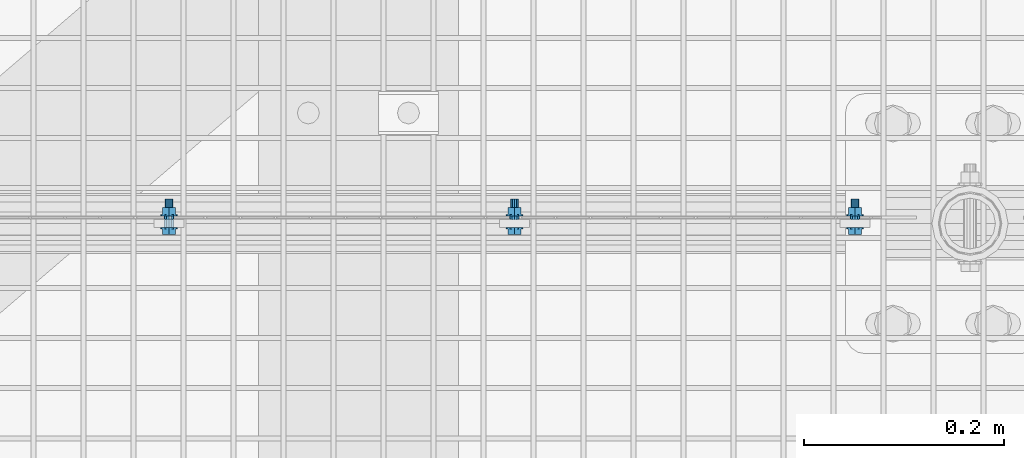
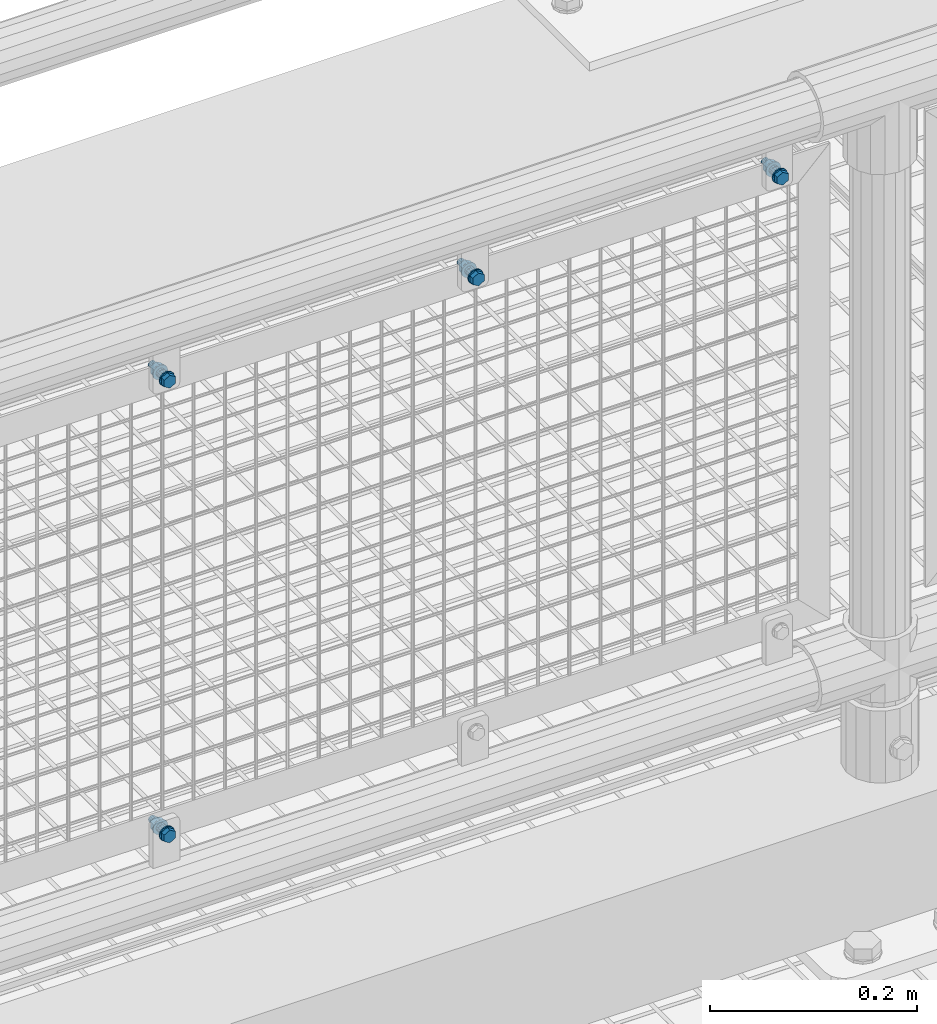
# One storey, part 83 of 1530: 4 mechanical fasteners.
"""IFC2X3 building model written with IfcOpenShell, lengths in millimetres."""

from ifc_helpers import new_model, si_unit, frame, origin_with_axes, place, context, subcontext, project, spatial, faceted_brep, source, transform, mapped, material, type_object, element, save


model = new_model("IFC2X3")

# Units and contexts
model_context = context("Model", 3, precision=1e-05, world=origin_with_axes())
body_context = subcontext(model_context, "Body", "Model", "MODEL_VIEW")
ifc_project = project(units=[si_unit("LENGTHUNIT", "METRE", prefix="MILLI"), si_unit("AREAUNIT", "SQUARE_METRE"), si_unit("VOLUMEUNIT", "CUBIC_METRE"), si_unit("MASSUNIT", "GRAM", prefix="KILO"), si_unit("TIMEUNIT", "SECOND"), si_unit("PLANEANGLEUNIT", "RADIAN"), si_unit("SOLIDANGLEUNIT", "STERADIAN"), si_unit("THERMODYNAMICTEMPERATUREUNIT", "DEGREE_CELSIUS"), si_unit("LUMINOUSINTENSITYUNIT", "LUMEN")], contexts=[model_context])

# Site, building, storey
site_placement = place(None, origin_with_axes())
site = spatial("IfcSite", under=ifc_project, at=site_placement, Name="Brattvåg", CompositionType="ELEMENT")
building_placement = place(site_placement, origin_with_axes())
building = spatial("IfcBuilding", under=site, at=building_placement, Name="Undefined", CompositionType="ELEMENT")
storey_placement = place(building_placement, origin_with_axes())
storey = spatial("IfcBuildingStorey", under=building, at=storey_placement, Name="Undefined", CompositionType="ELEMENT", Elevation=0.0)

# Mechanical fasteners
ifc_material = material(Name="8")
mechanical_fastener_type = type_object("IfcMechanicalFastenerType", Name="Bolt assembly")
shared_shape_1 = source(origin_with_axes(), body_context, "Body", "Brep", [
    faceted_brep([(7.50555349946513, -6.90000021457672, 0.0), (3.75277674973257, -6.90000021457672, 6.5), (-3.75277674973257, -6.90000021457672, 6.5), (-7.50555349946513, -6.90000021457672, 9.19165206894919e-16), (-3.75277674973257, -6.90000021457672, -6.5), (3.75277674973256, -6.90000021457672, -6.5), (3.75277674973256, -1.60000002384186, -6.5), (-3.75277674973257, -1.60000002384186, -6.5), (-7.50555349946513, -1.60000002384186, 9.19165206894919e-16), (-3.75277674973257, -1.60000002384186, 6.5), (3.75277674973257, -1.60000002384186, 6.5), (7.50555349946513, -1.60000002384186, 0.0), (4.0, -1.60000002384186, 0.0), (3.46410161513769, -1.60000002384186, 2.00000000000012), (1.99999999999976, -1.60000002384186, 3.46410161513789), (-4.14534392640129e-13, -1.60000002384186, 4.0), (-2.00000000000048, -1.60000002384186, 3.46410161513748), (-3.4641016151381, -1.60000002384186, 1.9999999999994), (-4.0, -1.60000002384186, -8.29068785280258e-13), (-3.46410161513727, -1.60000002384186, -2.00000000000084), (-1.99999999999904, -1.60000002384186, -3.46410161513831), (1.23916228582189e-12, -1.60000002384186, -4.0), (2.00000000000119, -1.60000002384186, -3.46410161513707), (3.46410161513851, -1.60000002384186, -1.99999999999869), (3.46410161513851, 28.3999999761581, -1.99999999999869), (2.00000000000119, 28.3999999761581, -3.46410161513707), (1.23916228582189e-12, 28.3999999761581, -4.0), (-1.99999999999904, 28.3999999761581, -3.46410161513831), (-3.46410161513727, 28.3999999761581, -2.00000000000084), (-4.0, 28.3999999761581, -8.29068785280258e-13), (-3.4641016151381, 28.3999999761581, 1.9999999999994), (-2.00000000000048, 28.3999999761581, 3.46410161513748), (-4.14534392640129e-13, 28.3999999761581, 4.0), (1.99999999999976, 28.3999999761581, 3.46410161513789), (3.46410161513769, 28.3999999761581, 2.00000000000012), (4.0, 28.3999999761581, 0.0), (8.5, -1.60000002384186, 0.0), (7.36121593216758, -1.60000002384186, 4.25000000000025), (4.24999999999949, -1.60000002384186, 7.36121593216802), (-8.80885584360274e-13, -1.60000002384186, 8.5), (-4.25000000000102, -1.60000002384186, 7.36121593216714), (-7.36121593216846, -1.60000002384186, 4.24999999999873), (-8.5, -1.60000002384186, -1.76177116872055e-12), (-7.3612159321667, -1.60000002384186, -4.25000000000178), (-4.24999999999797, -1.60000002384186, -7.3612159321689), (2.63321985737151e-12, -1.60000002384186, -8.5), (4.25000000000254, -1.60000002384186, -7.36121593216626), (7.36121593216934, -1.60000002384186, -4.24999999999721), (7.36121593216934, 0.0, -4.24999999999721), (4.25000000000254, 0.0, -7.36121593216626), (2.63321985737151e-12, 0.0, -8.5), (-4.24999999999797, 0.0, -7.3612159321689), (-7.3612159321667, 0.0, -4.25000000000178), (-8.5, 0.0, -1.76177116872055e-12), (-7.36121593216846, 0.0, 4.24999999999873), (-4.25000000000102, 0.0, 7.36121593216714), (-8.80885584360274e-13, 0.0, 8.5), (4.24999999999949, 0.0, 7.36121593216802), (7.36121593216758, 0.0, 4.25000000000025), (8.5, 0.0, 0.0), (8.5, 11.5015258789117, 0.0), (7.36121593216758, 11.5015258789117, 4.25000000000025), (4.24999999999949, 11.5015258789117, 7.36121593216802), (-8.80885584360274e-13, 11.5015258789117, 8.5), (-4.25000000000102, 11.5015258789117, 7.36121593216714), (-7.36121593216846, 11.5015258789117, 4.24999999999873), (-8.5, 11.5015258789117, -1.76177116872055e-12), (-7.3612159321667, 11.5015258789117, -4.25000000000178), (-4.24999999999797, 11.5015258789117, -7.3612159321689), (2.63321985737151e-12, 11.5015258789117, -8.5), (4.25000000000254, 11.5015258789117, -7.36121593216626), (7.36121593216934, 11.5015258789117, -4.24999999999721), (7.36121593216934, 13.1015259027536, -4.24999999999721), (4.25000000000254, 13.1015259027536, -7.36121593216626), (2.63321985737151e-12, 13.1015259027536, -8.5), (-4.24999999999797, 13.1015259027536, -7.3612159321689), (-7.3612159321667, 13.1015259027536, -4.25000000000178), (-8.5, 13.1015259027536, -1.76177116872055e-12), (-7.36121593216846, 13.1015259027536, 4.24999999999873), (-4.25000000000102, 13.1015259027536, 7.36121593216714), (-8.80885584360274e-13, 13.1015259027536, 8.5), (4.24999999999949, 13.1015259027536, 7.36121593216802), (7.36121593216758, 13.1015259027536, 4.25000000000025), (8.5, 13.1015259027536, 0.0), (7.50555349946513, 13.1015259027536, 0.0), (3.75277674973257, 13.1015259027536, 6.5), (-3.75277674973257, 13.1015259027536, 6.5), (-7.50555349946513, 13.1015259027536, 9.19165206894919e-16), (-3.75277674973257, 13.1015259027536, -6.5), (3.75277674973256, 13.1015259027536, -6.5), (3.75277674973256, 19.9015260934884, -6.5), (-3.75277674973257, 19.9015260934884, -6.5), (-7.50555349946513, 19.9015260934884, 9.19165206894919e-16), (-3.75277674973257, 19.9015260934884, 6.5), (3.75277674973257, 19.9015260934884, 6.5), (7.50555349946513, 19.9015260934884, 0.0)], [[[0, 1, 2, 3, 4, 5]], [[6, 7, 8, 9, 10, 11]], [[0, 11, 10, 1]], [[1, 10, 9, 2]], [[2, 9, 8, 3]], [[3, 8, 7, 4]], [[4, 7, 6, 5]], [[5, 6, 11, 0]], [[12, 13, 14, 15, 16, 17, 18, 19, 20, 21, 22, 23]], [[24, 25, 26, 27, 28, 29, 30, 31, 32, 33, 34, 35]], [[12, 35, 34, 13]], [[13, 34, 33, 14]], [[14, 33, 32, 15]], [[15, 32, 31, 16]], [[16, 31, 30, 17]], [[17, 30, 29, 18]], [[18, 29, 28, 19]], [[19, 28, 27, 20]], [[20, 27, 26, 21]], [[21, 26, 25, 22]], [[22, 25, 24, 23]], [[23, 24, 35, 12]], [[36, 37, 38, 39, 40, 41, 42, 43, 44, 45, 46, 47]], [[48, 49, 50, 51, 52, 53, 54, 55, 56, 57, 58, 59]], [[36, 59, 58, 37]], [[37, 58, 57, 38]], [[38, 57, 56, 39]], [[39, 56, 55, 40]], [[40, 55, 54, 41]], [[41, 54, 53, 42]], [[42, 53, 52, 43]], [[43, 52, 51, 44]], [[44, 51, 50, 45]], [[45, 50, 49, 46]], [[46, 49, 48, 47]], [[47, 48, 59, 36]], [[60, 61, 62, 63, 64, 65, 66, 67, 68, 69, 70, 71]], [[72, 73, 74, 75, 76, 77, 78, 79, 80, 81, 82, 83]], [[60, 83, 82, 61]], [[61, 82, 81, 62]], [[62, 81, 80, 63]], [[63, 80, 79, 64]], [[64, 79, 78, 65]], [[65, 78, 77, 66]], [[66, 77, 76, 67]], [[67, 76, 75, 68]], [[68, 75, 74, 69]], [[69, 74, 73, 70]], [[70, 73, 72, 71]], [[71, 72, 83, 60]], [[84, 85, 86, 87, 88, 89]], [[90, 91, 92, 93, 94, 95]], [[84, 95, 94, 85]], [[85, 94, 93, 86]], [[86, 93, 92, 87]], [[87, 92, 91, 88]], [[88, 91, 90, 89]], [[89, 90, 95, 84]]]),
    faceted_brep([(5.0, 0.1, 0.0), (4.33012701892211, 0.1, 2.50000000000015), (2.4999999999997, 0.1, 4.33012701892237), (-5.18167990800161e-13, 0.1, 5.0), (-2.5000000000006, 0.1, 4.33012701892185), (-4.33012701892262, 0.1, 2.49999999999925), (-5.0, 0.1, -1.03633598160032e-12), (-4.33012701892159, 0.1, -2.50000000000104), (-2.49999999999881, 0.1, -4.33012701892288), (1.54895285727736e-12, 0.1, -5.0), (2.50000000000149, 0.1, -4.33012701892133), (4.33012701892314, 0.1, -2.49999999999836), (4.33012701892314, 8.1, -2.49999999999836), (2.50000000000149, 8.1, -4.33012701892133), (1.54895285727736e-12, 8.1, -5.0), (-2.49999999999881, 8.1, -4.33012701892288), (-4.33012701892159, 8.1, -2.50000000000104), (-5.0, 8.1, -1.03633598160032e-12), (-4.33012701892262, 8.1, 2.49999999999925), (-2.5000000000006, 8.1, 4.33012701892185), (-5.18167990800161e-13, 8.1, 5.0), (2.4999999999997, 8.1, 4.33012701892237), (4.33012701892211, 8.1, 2.50000000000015), (5.0, 8.1, 0.0), (5.0, 8.40152587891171, 0.0), (4.33012701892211, 8.40152587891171, 2.50000000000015), (2.4999999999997, 8.40152587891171, 4.33012701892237), (-5.18167990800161e-13, 8.40152587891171, 5.0), (-2.5000000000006, 8.40152587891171, 4.33012701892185), (-4.33012701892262, 8.40152587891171, 2.49999999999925), (-5.0, 8.40152587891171, -1.03633598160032e-12), (-4.33012701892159, 8.40152587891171, -2.50000000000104), (-2.49999999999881, 8.40152587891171, -4.33012701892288), (1.54895285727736e-12, 8.40152587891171, -5.0), (2.50000000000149, 8.40152587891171, -4.33012701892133), (4.33012701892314, 8.40152587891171, -2.49999999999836), (4.33012701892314, 11.5015258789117, -2.49999999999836), (2.50000000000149, 11.5015258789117, -4.33012701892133), (1.54895285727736e-12, 11.5015258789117, -5.0), (-2.49999999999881, 11.5015258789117, -4.33012701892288), (-4.33012701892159, 11.5015258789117, -2.50000000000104), (-5.0, 11.5015258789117, -1.03633598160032e-12), (-4.33012701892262, 11.5015258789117, 2.49999999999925), (-2.5000000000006, 11.5015258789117, 4.33012701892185), (-5.18167990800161e-13, 11.5015258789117, 5.0), (2.4999999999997, 11.5015258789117, 4.33012701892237), (4.33012701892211, 11.5015258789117, 2.50000000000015), (5.0, 11.5015258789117, 0.0)], [[[0, 1, 2, 3, 4, 5, 6, 7, 8, 9, 10, 11]], [[12, 13, 14, 15, 16, 17, 18, 19, 20, 21, 22, 23]], [[0, 23, 22, 1]], [[1, 22, 21, 2]], [[2, 21, 20, 3]], [[3, 20, 19, 4]], [[4, 19, 18, 5]], [[5, 18, 17, 6]], [[6, 17, 16, 7]], [[7, 16, 15, 8]], [[8, 15, 14, 9]], [[9, 14, 13, 10]], [[10, 13, 12, 11]], [[11, 12, 23, 0]], [[24, 25, 26, 27, 28, 29, 30, 31, 32, 33, 34, 35]], [[36, 37, 38, 39, 40, 41, 42, 43, 44, 45, 46, 47]], [[24, 47, 46, 25]], [[25, 46, 45, 26]], [[26, 45, 44, 27]], [[27, 44, 43, 28]], [[28, 43, 42, 29]], [[29, 42, 41, 30]], [[30, 41, 40, 31]], [[31, 40, 39, 32]], [[32, 39, 38, 33]], [[33, 38, 37, 34]], [[34, 37, 36, 35]], [[35, 36, 47, 24]]]),
])
for number, where, z_axis, x_axis, name in (
    (1, (6220.8504180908, 7660.49950027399, 889.680069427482), (-1.0, 1.99999855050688e-09, 0.0), (0.0, 0.0, 1.0), "Bolt assembly"),
    (2, (6565.85163879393, 7660.49950027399, 889.680069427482), (-1.0, 1.99999855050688e-09, 0.0), (0.0, 0.0, 1.0), "Bolt assembly"),
):
    element("IfcMechanicalFastener", number, at=place(storey_placement, frame(where, z_axis=z_axis, x_axis=x_axis)), inside=storey, type_object=mechanical_fastener_type, material=ifc_material, Name=name, NominalDiameter=8.0, NominalLength=30.0, context=body_context, shape_type="MappedRepresentation", body=[
        mapped(shared_shape_1, transform((0.0, 0.0, 0.0))),
    ])
shared_shape_2 = source(origin_with_axes(), body_context, "Body", "Brep", [
    faceted_brep([(7.50555349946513, -6.90000021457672, 0.0), (3.75277674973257, -6.90000021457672, 6.5), (-3.75277674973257, -6.90000021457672, 6.5), (-7.50555349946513, -6.90000021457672, 9.19165206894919e-16), (-3.75277674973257, -6.90000021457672, -6.5), (3.75277674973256, -6.90000021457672, -6.5), (3.75277674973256, -1.60000002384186, -6.5), (-3.75277674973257, -1.60000002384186, -6.5), (-7.50555349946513, -1.60000002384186, 9.19165206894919e-16), (-3.75277674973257, -1.60000002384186, 6.5), (3.75277674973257, -1.60000002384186, 6.5), (7.50555349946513, -1.60000002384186, 0.0), (4.0, -1.60000002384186, 0.0), (3.46410161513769, -1.60000002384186, 2.00000000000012), (1.99999999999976, -1.60000002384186, 3.46410161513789), (-4.14534392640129e-13, -1.60000002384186, 4.0), (-2.00000000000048, -1.60000002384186, 3.46410161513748), (-3.4641016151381, -1.60000002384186, 1.9999999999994), (-4.0, -1.60000002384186, -8.29068785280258e-13), (-3.46410161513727, -1.60000002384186, -2.00000000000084), (-1.99999999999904, -1.60000002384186, -3.46410161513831), (1.23916228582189e-12, -1.60000002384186, -4.0), (2.00000000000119, -1.60000002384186, -3.46410161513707), (3.46410161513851, -1.60000002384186, -1.99999999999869), (3.46410161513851, 28.3999999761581, -1.99999999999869), (2.00000000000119, 28.3999999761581, -3.46410161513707), (1.23916228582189e-12, 28.3999999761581, -4.0), (-1.99999999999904, 28.3999999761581, -3.46410161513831), (-3.46410161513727, 28.3999999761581, -2.00000000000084), (-4.0, 28.3999999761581, -8.29068785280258e-13), (-3.4641016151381, 28.3999999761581, 1.9999999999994), (-2.00000000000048, 28.3999999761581, 3.46410161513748), (-4.14534392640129e-13, 28.3999999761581, 4.0), (1.99999999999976, 28.3999999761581, 3.46410161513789), (3.46410161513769, 28.3999999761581, 2.00000000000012), (4.0, 28.3999999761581, 0.0), (8.5, -1.60000002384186, 0.0), (7.36121593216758, -1.60000002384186, 4.25000000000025), (4.24999999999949, -1.60000002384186, 7.36121593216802), (-8.80885584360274e-13, -1.60000002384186, 8.5), (-4.25000000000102, -1.60000002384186, 7.36121593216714), (-7.36121593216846, -1.60000002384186, 4.24999999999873), (-8.5, -1.60000002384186, -1.76177116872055e-12), (-7.3612159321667, -1.60000002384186, -4.25000000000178), (-4.24999999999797, -1.60000002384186, -7.3612159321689), (2.63321985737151e-12, -1.60000002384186, -8.5), (4.25000000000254, -1.60000002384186, -7.36121593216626), (7.36121593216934, -1.60000002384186, -4.24999999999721), (7.36121593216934, 0.0, -4.24999999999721), (4.25000000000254, 0.0, -7.36121593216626), (2.63321985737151e-12, 0.0, -8.5), (-4.24999999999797, 0.0, -7.3612159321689), (-7.3612159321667, 0.0, -4.25000000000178), (-8.5, 0.0, -1.76177116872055e-12), (-7.36121593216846, 0.0, 4.24999999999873), (-4.25000000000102, 0.0, 7.36121593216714), (-8.80885584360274e-13, 0.0, 8.5), (4.24999999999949, 0.0, 7.36121593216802), (7.36121593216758, 0.0, 4.25000000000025), (8.5, 0.0, 0.0), (8.5, 11.5021362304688, 0.0), (7.36121593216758, 11.5021362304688, 4.25000000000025), (4.24999999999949, 11.5021362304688, 7.36121593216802), (-8.80885584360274e-13, 11.5021362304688, 8.5), (-4.25000000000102, 11.5021362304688, 7.36121593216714), (-7.36121593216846, 11.5021362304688, 4.24999999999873), (-8.5, 11.5021362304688, -1.76177116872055e-12), (-7.3612159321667, 11.5021362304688, -4.25000000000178), (-4.24999999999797, 11.5021362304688, -7.3612159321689), (2.63321985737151e-12, 11.5021362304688, -8.5), (4.25000000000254, 11.5021362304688, -7.36121593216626), (7.36121593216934, 11.5021362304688, -4.24999999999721), (7.36121593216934, 13.1021362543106, -4.24999999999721), (4.25000000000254, 13.1021362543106, -7.36121593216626), (2.63321985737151e-12, 13.1021362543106, -8.5), (-4.24999999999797, 13.1021362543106, -7.3612159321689), (-7.3612159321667, 13.1021362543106, -4.25000000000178), (-8.5, 13.1021362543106, -1.76177116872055e-12), (-7.36121593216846, 13.1021362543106, 4.24999999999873), (-4.25000000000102, 13.1021362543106, 7.36121593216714), (-8.80885584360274e-13, 13.1021362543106, 8.5), (4.24999999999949, 13.1021362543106, 7.36121593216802), (7.36121593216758, 13.1021362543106, 4.25000000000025), (8.5, 13.1021362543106, 0.0), (7.50555349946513, 13.1021362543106, 0.0), (3.75277674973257, 13.1021362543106, 6.5), (-3.75277674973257, 13.1021362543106, 6.5), (-7.50555349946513, 13.1021362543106, 9.19165206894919e-16), (-3.75277674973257, 13.1021362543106, -6.5), (3.75277674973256, 13.1021362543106, -6.5), (3.75277674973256, 19.9021364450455, -6.5), (-3.75277674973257, 19.9021364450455, -6.5), (-7.50555349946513, 19.9021364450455, 9.19165206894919e-16), (-3.75277674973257, 19.9021364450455, 6.5), (3.75277674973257, 19.9021364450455, 6.5), (7.50555349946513, 19.9021364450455, 0.0)], [[[0, 1, 2, 3, 4, 5]], [[6, 7, 8, 9, 10, 11]], [[0, 11, 10, 1]], [[1, 10, 9, 2]], [[2, 9, 8, 3]], [[3, 8, 7, 4]], [[4, 7, 6, 5]], [[5, 6, 11, 0]], [[12, 13, 14, 15, 16, 17, 18, 19, 20, 21, 22, 23]], [[24, 25, 26, 27, 28, 29, 30, 31, 32, 33, 34, 35]], [[12, 35, 34, 13]], [[13, 34, 33, 14]], [[14, 33, 32, 15]], [[15, 32, 31, 16]], [[16, 31, 30, 17]], [[17, 30, 29, 18]], [[18, 29, 28, 19]], [[19, 28, 27, 20]], [[20, 27, 26, 21]], [[21, 26, 25, 22]], [[22, 25, 24, 23]], [[23, 24, 35, 12]], [[36, 37, 38, 39, 40, 41, 42, 43, 44, 45, 46, 47]], [[48, 49, 50, 51, 52, 53, 54, 55, 56, 57, 58, 59]], [[36, 59, 58, 37]], [[37, 58, 57, 38]], [[38, 57, 56, 39]], [[39, 56, 55, 40]], [[40, 55, 54, 41]], [[41, 54, 53, 42]], [[42, 53, 52, 43]], [[43, 52, 51, 44]], [[44, 51, 50, 45]], [[45, 50, 49, 46]], [[46, 49, 48, 47]], [[47, 48, 59, 36]], [[60, 61, 62, 63, 64, 65, 66, 67, 68, 69, 70, 71]], [[72, 73, 74, 75, 76, 77, 78, 79, 80, 81, 82, 83]], [[60, 83, 82, 61]], [[61, 82, 81, 62]], [[62, 81, 80, 63]], [[63, 80, 79, 64]], [[64, 79, 78, 65]], [[65, 78, 77, 66]], [[66, 77, 76, 67]], [[67, 76, 75, 68]], [[68, 75, 74, 69]], [[69, 74, 73, 70]], [[70, 73, 72, 71]], [[71, 72, 83, 60]], [[84, 85, 86, 87, 88, 89]], [[90, 91, 92, 93, 94, 95]], [[84, 95, 94, 85]], [[85, 94, 93, 86]], [[86, 93, 92, 87]], [[87, 92, 91, 88]], [[88, 91, 90, 89]], [[89, 90, 95, 84]]]),
    faceted_brep([(5.0, 0.1, 0.0), (4.33012701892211, 0.1, 2.50000000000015), (2.4999999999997, 0.1, 4.33012701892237), (-5.18167990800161e-13, 0.1, 5.0), (-2.5000000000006, 0.1, 4.33012701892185), (-4.33012701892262, 0.1, 2.49999999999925), (-5.0, 0.1, -1.03633598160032e-12), (-4.33012701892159, 0.1, -2.50000000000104), (-2.49999999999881, 0.1, -4.33012701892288), (1.54895285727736e-12, 0.1, -5.0), (2.50000000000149, 0.1, -4.33012701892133), (4.33012701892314, 0.1, -2.49999999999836), (4.33012701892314, 8.1, -2.49999999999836), (2.50000000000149, 8.1, -4.33012701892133), (1.54895285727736e-12, 8.1, -5.0), (-2.49999999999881, 8.1, -4.33012701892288), (-4.33012701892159, 8.1, -2.50000000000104), (-5.0, 8.1, -1.03633598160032e-12), (-4.33012701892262, 8.1, 2.49999999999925), (-2.5000000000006, 8.1, 4.33012701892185), (-5.18167990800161e-13, 8.1, 5.0), (2.4999999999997, 8.1, 4.33012701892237), (4.33012701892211, 8.1, 2.50000000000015), (5.0, 8.1, 0.0), (5.0, 8.40213623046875, 0.0), (4.33012701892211, 8.40213623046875, 2.50000000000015), (2.4999999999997, 8.40213623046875, 4.33012701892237), (-5.18167990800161e-13, 8.40213623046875, 5.0), (-2.5000000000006, 8.40213623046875, 4.33012701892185), (-4.33012701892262, 8.40213623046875, 2.49999999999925), (-5.0, 8.40213623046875, -1.03633598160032e-12), (-4.33012701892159, 8.40213623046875, -2.50000000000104), (-2.49999999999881, 8.40213623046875, -4.33012701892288), (1.54895285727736e-12, 8.40213623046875, -5.0), (2.50000000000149, 8.40213623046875, -4.33012701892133), (4.33012701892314, 8.40213623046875, -2.49999999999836), (4.33012701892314, 11.5021362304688, -2.49999999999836), (2.50000000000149, 11.5021362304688, -4.33012701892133), (1.54895285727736e-12, 11.5021362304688, -5.0), (-2.49999999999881, 11.5021362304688, -4.33012701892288), (-4.33012701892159, 11.5021362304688, -2.50000000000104), (-5.0, 11.5021362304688, -1.03633598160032e-12), (-4.33012701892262, 11.5021362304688, 2.49999999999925), (-2.5000000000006, 11.5021362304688, 4.33012701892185), (-5.18167990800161e-13, 11.5021362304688, 5.0), (2.4999999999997, 11.5021362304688, 4.33012701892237), (4.33012701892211, 11.5021362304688, 2.50000000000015), (5.0, 11.5021362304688, 0.0)], [[[0, 1, 2, 3, 4, 5, 6, 7, 8, 9, 10, 11]], [[12, 13, 14, 15, 16, 17, 18, 19, 20, 21, 22, 23]], [[0, 23, 22, 1]], [[1, 22, 21, 2]], [[2, 21, 20, 3]], [[3, 20, 19, 4]], [[4, 19, 18, 5]], [[5, 18, 17, 6]], [[6, 17, 16, 7]], [[7, 16, 15, 8]], [[8, 15, 14, 9]], [[9, 14, 13, 10]], [[10, 13, 12, 11]], [[11, 12, 23, 0]], [[24, 25, 26, 27, 28, 29, 30, 31, 32, 33, 34, 35]], [[36, 37, 38, 39, 40, 41, 42, 43, 44, 45, 46, 47]], [[24, 47, 46, 25]], [[25, 46, 45, 26]], [[26, 45, 44, 27]], [[27, 44, 43, 28]], [[28, 43, 42, 29]], [[29, 42, 41, 30]], [[30, 41, 40, 31]], [[31, 40, 39, 32]], [[32, 39, 38, 33]], [[33, 38, 37, 34]], [[34, 37, 36, 35]], [[35, 36, 47, 24]]]),
])
mechanical_fastener_1_placement = place(storey_placement, frame((6906.00009155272, 7660.49888992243, 889.679782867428), z_axis=(-1.0, 1.99999855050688e-09, 0.0), x_axis=(0.0, 0.0, 1.0)))
element("IfcMechanicalFastener", 3, at=mechanical_fastener_1_placement, inside=storey, type_object=mechanical_fastener_type, material=ifc_material, Name="Bolt assembly", NominalDiameter=8.0, NominalLength=30.0, context=body_context, shape_type="MappedRepresentation", body=[
    mapped(shared_shape_2, transform((0.0, 0.0, 0.0))),
])
shared_shape_3 = source(origin_with_axes(), body_context, "Body", "Brep", [
    faceted_brep([(7.50555349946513, -6.899000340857, 0.0), (3.75277674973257, -6.899000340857, 6.5), (-3.75277674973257, -6.899000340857, 6.5), (-7.50555349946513, -6.899000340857, 9.19165206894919e-16), (-3.75277674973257, -6.899000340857, -6.5), (3.75277674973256, -6.899000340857, -6.5), (3.75277674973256, -1.59900015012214, -6.5), (-3.75277674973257, -1.59900015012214, -6.5), (-7.50555349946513, -1.59900015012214, 9.19165206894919e-16), (-3.75277674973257, -1.59900015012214, 6.5), (3.75277674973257, -1.59900015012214, 6.5), (7.50555349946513, -1.59900015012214, 0.0), (4.0, -1.59900015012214, 0.0), (3.46410161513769, -1.59900015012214, 2.00000000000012), (1.99999999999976, -1.59900015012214, 3.46410161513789), (-4.14534392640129e-13, -1.59900015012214, 4.0), (-2.00000000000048, -1.59900015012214, 3.46410161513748), (-3.4641016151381, -1.59900015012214, 1.9999999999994), (-4.0, -1.59900015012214, -8.29068785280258e-13), (-3.46410161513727, -1.59900015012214, -2.00000000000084), (-1.99999999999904, -1.59900015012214, -3.46410161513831), (1.23916228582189e-12, -1.59900015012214, -4.0), (2.00000000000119, -1.59900015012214, -3.46410161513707), (3.46410161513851, -1.59900015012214, -1.99999999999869), (3.46410161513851, 28.4009998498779, -1.99999999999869), (2.00000000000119, 28.4009998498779, -3.46410161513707), (1.23916228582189e-12, 28.4009998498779, -4.0), (-1.99999999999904, 28.4009998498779, -3.46410161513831), (-3.46410161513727, 28.4009998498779, -2.00000000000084), (-4.0, 28.4009998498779, -8.29068785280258e-13), (-3.4641016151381, 28.4009998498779, 1.9999999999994), (-2.00000000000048, 28.4009998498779, 3.46410161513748), (-4.14534392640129e-13, 28.4009998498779, 4.0), (1.99999999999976, 28.4009998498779, 3.46410161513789), (3.46410161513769, 28.4009998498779, 2.00000000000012), (4.0, 28.4009998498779, 0.0), (8.5, -1.59900015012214, 0.0), (7.36121593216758, -1.59900015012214, 4.25000000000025), (4.24999999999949, -1.59900015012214, 7.36121593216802), (-8.80885584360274e-13, -1.59900015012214, 8.5), (-4.25000000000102, -1.59900015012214, 7.36121593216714), (-7.36121593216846, -1.59900015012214, 4.24999999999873), (-8.5, -1.59900015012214, -1.76177116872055e-12), (-7.3612159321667, -1.59900015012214, -4.25000000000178), (-4.24999999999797, -1.59900015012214, -7.3612159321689), (2.63321985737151e-12, -1.59900015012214, -8.5), (4.25000000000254, -1.59900015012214, -7.36121593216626), (7.36121593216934, -1.59900015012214, -4.24999999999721), (7.36121593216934, 0.000999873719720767, -4.24999999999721), (4.25000000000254, 0.000999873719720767, -7.36121593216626), (2.63321985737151e-12, 0.000999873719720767, -8.5), (-4.24999999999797, 0.000999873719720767, -7.3612159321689), (-7.3612159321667, 0.000999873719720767, -4.25000000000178), (-8.5, 0.000999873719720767, -1.76177116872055e-12), (-7.36121593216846, 0.000999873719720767, 4.24999999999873), (-4.25000000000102, 0.000999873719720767, 7.36121593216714), (-8.80885584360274e-13, 0.000999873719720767, 8.5), (4.24999999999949, 0.000999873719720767, 7.36121593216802), (7.36121593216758, 0.000999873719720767, 4.25000000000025), (8.5, 0.000999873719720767, 0.0), (8.5, 11.5035404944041, 0.0), (7.36121593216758, 11.5035404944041, 4.25000000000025), (4.24999999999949, 11.5035404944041, 7.36121593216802), (-8.80885584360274e-13, 11.5035404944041, 8.5), (-4.25000000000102, 11.5035404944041, 7.36121593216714), (-7.36121593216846, 11.5035404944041, 4.24999999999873), (-8.5, 11.5035404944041, -1.76177116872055e-12), (-7.3612159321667, 11.5035404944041, -4.25000000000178), (-4.24999999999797, 11.5035404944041, -7.3612159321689), (2.63321985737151e-12, 11.5035404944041, -8.5), (4.25000000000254, 11.5035404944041, -7.36121593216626), (7.36121593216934, 11.5035404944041, -4.24999999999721), (7.36121593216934, 13.1035405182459, -4.24999999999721), (4.25000000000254, 13.1035405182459, -7.36121593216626), (2.63321985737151e-12, 13.1035405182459, -8.5), (-4.24999999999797, 13.1035405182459, -7.3612159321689), (-7.3612159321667, 13.1035405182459, -4.25000000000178), (-8.5, 13.1035405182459, -1.76177116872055e-12), (-7.36121593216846, 13.1035405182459, 4.24999999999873), (-4.25000000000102, 13.1035405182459, 7.36121593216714), (-8.80885584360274e-13, 13.1035405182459, 8.5), (4.24999999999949, 13.1035405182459, 7.36121593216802), (7.36121593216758, 13.1035405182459, 4.25000000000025), (8.5, 13.1035405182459, 0.0), (7.50555349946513, 13.1035405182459, 0.0), (3.75277674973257, 13.1035405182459, 6.5), (-3.75277674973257, 13.1035405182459, 6.5), (-7.50555349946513, 13.1035405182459, 9.19165206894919e-16), (-3.75277674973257, 13.1035405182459, -6.5), (3.75277674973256, 13.1035405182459, -6.5), (3.75277674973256, 19.9035407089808, -6.5), (-3.75277674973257, 19.9035407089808, -6.5), (-7.50555349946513, 19.9035407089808, 9.19165206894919e-16), (-3.75277674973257, 19.9035407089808, 6.5), (3.75277674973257, 19.9035407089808, 6.5), (7.50555349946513, 19.9035407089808, 0.0)], [[[0, 1, 2, 3, 4, 5]], [[6, 7, 8, 9, 10, 11]], [[0, 11, 10, 1]], [[1, 10, 9, 2]], [[2, 9, 8, 3]], [[3, 8, 7, 4]], [[4, 7, 6, 5]], [[5, 6, 11, 0]], [[12, 13, 14, 15, 16, 17, 18, 19, 20, 21, 22, 23]], [[24, 25, 26, 27, 28, 29, 30, 31, 32, 33, 34, 35]], [[12, 35, 34, 13]], [[13, 34, 33, 14]], [[14, 33, 32, 15]], [[15, 32, 31, 16]], [[16, 31, 30, 17]], [[17, 30, 29, 18]], [[18, 29, 28, 19]], [[19, 28, 27, 20]], [[20, 27, 26, 21]], [[21, 26, 25, 22]], [[22, 25, 24, 23]], [[23, 24, 35, 12]], [[36, 37, 38, 39, 40, 41, 42, 43, 44, 45, 46, 47]], [[48, 49, 50, 51, 52, 53, 54, 55, 56, 57, 58, 59]], [[36, 59, 58, 37]], [[37, 58, 57, 38]], [[38, 57, 56, 39]], [[39, 56, 55, 40]], [[40, 55, 54, 41]], [[41, 54, 53, 42]], [[42, 53, 52, 43]], [[43, 52, 51, 44]], [[44, 51, 50, 45]], [[45, 50, 49, 46]], [[46, 49, 48, 47]], [[47, 48, 59, 36]], [[60, 61, 62, 63, 64, 65, 66, 67, 68, 69, 70, 71]], [[72, 73, 74, 75, 76, 77, 78, 79, 80, 81, 82, 83]], [[60, 83, 82, 61]], [[61, 82, 81, 62]], [[62, 81, 80, 63]], [[63, 80, 79, 64]], [[64, 79, 78, 65]], [[65, 78, 77, 66]], [[66, 77, 76, 67]], [[67, 76, 75, 68]], [[68, 75, 74, 69]], [[69, 74, 73, 70]], [[70, 73, 72, 71]], [[71, 72, 83, 60]], [[84, 85, 86, 87, 88, 89]], [[90, 91, 92, 93, 94, 95]], [[84, 95, 94, 85]], [[85, 94, 93, 86]], [[86, 93, 92, 87]], [[87, 92, 91, 88]], [[88, 91, 90, 89]], [[89, 90, 95, 84]]]),
    faceted_brep([(5.0, 0.100999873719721, 0.0), (4.33012701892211, 0.100999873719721, 2.50000000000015), (2.4999999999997, 0.100999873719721, 4.33012701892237), (-5.18167990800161e-13, 0.100999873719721, 5.0), (-2.5000000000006, 0.100999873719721, 4.33012701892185), (-4.33012701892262, 0.100999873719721, 2.49999999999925), (-5.0, 0.100999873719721, -1.03633598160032e-12), (-4.33012701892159, 0.100999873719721, -2.50000000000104), (-2.49999999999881, 0.100999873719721, -4.33012701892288), (1.54895285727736e-12, 0.100999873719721, -5.0), (2.50000000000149, 0.100999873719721, -4.33012701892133), (4.33012701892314, 0.100999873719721, -2.49999999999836), (4.33012701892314, 8.10099988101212, -2.49999999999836), (2.50000000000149, 8.10099988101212, -4.33012701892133), (1.54895285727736e-12, 8.10099988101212, -5.0), (-2.49999999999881, 8.10099988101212, -4.33012701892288), (-4.33012701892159, 8.10099988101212, -2.50000000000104), (-5.0, 8.10099988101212, -1.03633598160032e-12), (-4.33012701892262, 8.10099988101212, 2.49999999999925), (-2.5000000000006, 8.10099988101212, 4.33012701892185), (-5.18167990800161e-13, 8.10099988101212, 5.0), (2.4999999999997, 8.10099988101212, 4.33012701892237), (4.33012701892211, 8.10099988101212, 2.50000000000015), (5.0, 8.10099988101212, 0.0), (5.0, 8.40354049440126, 0.0), (4.33012701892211, 8.40354049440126, 2.50000000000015), (2.4999999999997, 8.40354049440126, 4.33012701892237), (-5.18167990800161e-13, 8.40354049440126, 5.0), (-2.5000000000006, 8.40354049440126, 4.33012701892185), (-4.33012701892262, 8.40354049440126, 2.49999999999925), (-5.0, 8.40354049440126, -1.03633598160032e-12), (-4.33012701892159, 8.40354049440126, -2.50000000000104), (-2.49999999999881, 8.40354049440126, -4.33012701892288), (1.54895285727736e-12, 8.40354049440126, -5.0), (2.50000000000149, 8.40354049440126, -4.33012701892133), (4.33012701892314, 8.40354049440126, -2.49999999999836), (4.33012701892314, 11.5035404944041, -2.49999999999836), (2.50000000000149, 11.5035404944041, -4.33012701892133), (1.54895285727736e-12, 11.5035404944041, -5.0), (-2.49999999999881, 11.5035404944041, -4.33012701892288), (-4.33012701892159, 11.5035404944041, -2.50000000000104), (-5.0, 11.5035404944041, -1.03633598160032e-12), (-4.33012701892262, 11.5035404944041, 2.49999999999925), (-2.5000000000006, 11.5035404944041, 4.33012701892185), (-5.18167990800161e-13, 11.5035404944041, 5.0), (2.4999999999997, 11.5035404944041, 4.33012701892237), (4.33012701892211, 11.5035404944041, 2.50000000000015), (5.0, 11.5035404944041, 0.0)], [[[0, 1, 2, 3, 4, 5, 6, 7, 8, 9, 10, 11]], [[12, 13, 14, 15, 16, 17, 18, 19, 20, 21, 22, 23]], [[0, 23, 22, 1]], [[1, 22, 21, 2]], [[2, 21, 20, 3]], [[3, 20, 19, 4]], [[4, 19, 18, 5]], [[5, 18, 17, 6]], [[6, 17, 16, 7]], [[7, 16, 15, 8]], [[8, 15, 14, 9]], [[9, 14, 13, 10]], [[10, 13, 12, 11]], [[11, 12, 23, 0]], [[24, 25, 26, 27, 28, 29, 30, 31, 32, 33, 34, 35]], [[36, 37, 38, 39, 40, 41, 42, 43, 44, 45, 46, 47]], [[24, 47, 46, 25]], [[25, 46, 45, 26]], [[26, 45, 44, 27]], [[27, 44, 43, 28]], [[28, 43, 42, 29]], [[29, 42, 41, 30]], [[30, 41, 40, 31]], [[31, 40, 39, 32]], [[32, 39, 38, 33]], [[33, 38, 37, 34]], [[34, 37, 36, 35]], [[35, 36, 47, 24]]]),
])
mechanical_fastener_2_placement = place(storey_placement, frame((6220.85007476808, 7660.49843978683, 352.299672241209), z_axis=(-1.0, 1.99999855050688e-09, 0.0), x_axis=(0.0, 0.0, 1.0)))
element("IfcMechanicalFastener", 4, at=mechanical_fastener_2_placement, inside=storey, type_object=mechanical_fastener_type, material=ifc_material, Name="Bolt assembly", NominalDiameter=8.0, NominalLength=30.0, context=body_context, shape_type="MappedRepresentation", body=[
    mapped(shared_shape_3, transform((0.0, 0.0, 0.0))),
])

save(model, "model.ifc")
